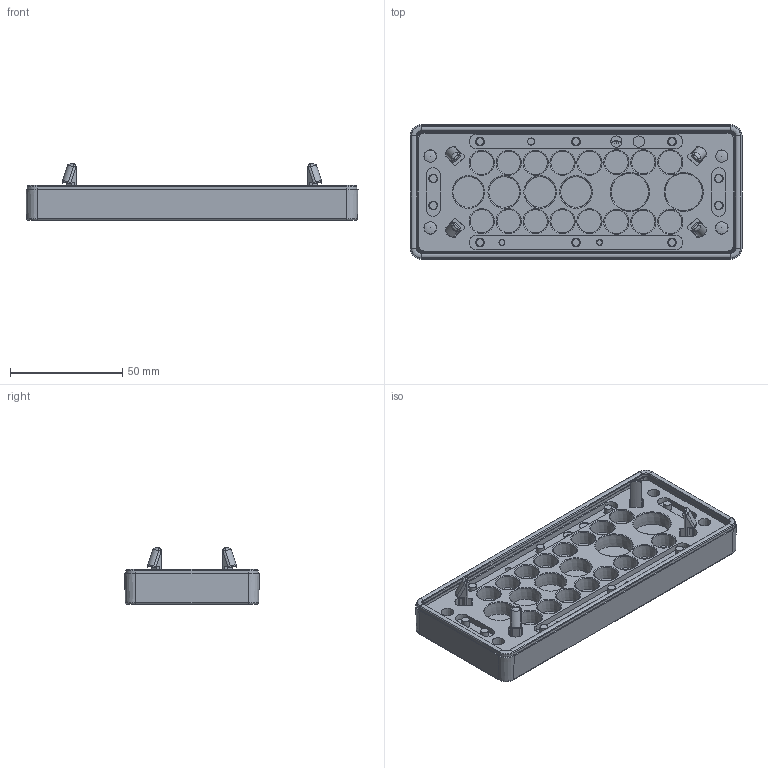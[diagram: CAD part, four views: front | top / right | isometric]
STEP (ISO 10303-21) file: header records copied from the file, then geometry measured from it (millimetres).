
FILE_DESCRIPTION(/* description */ (''),/* implementation_level */ '2;1');
FILE_NAME(/* name */ 'H:\SapWorkDir\Inventor\MP1\ConvertTempPath\87_16_121491_00_A_220510_KDP-X 24-22 ZSB - Blech 1,5-2,0.stp',/* time_stamp */ '2022-10-06T06:48:13+02:00',/* author */ ('BAUER'),/* organization */ (''),/* preprocessor_version */ 'ST-DEVELOPER v16.13',/* originating_system */ 'Autodesk Inventor 2018',/* authorisation */ '');
FILE_SCHEMA (('AUTOMOTIVE_DESIGN { 1 0 10303 214 3 1 1 }'));
Products named in the file (5): 121491; 121387; 105851_MPS_3F1; 104104_MPS_3F1; 105849_MPS_3F1
Assembly tree (4 placements, depth 2):
  121491
    121387
    105851_MPS_3F1
    104104_MPS_3F1
    105849_MPS_3F1
Bounding box: 148 x 60 x 25 mm (x, y, z)
Volume: 73762.7 mm3; surface area: 72062.5 mm2
Topology: 4 solids, 4 shells, 3092 faces, 7949 edges, 4751 vertices
Faces by surface type: plane 1327, bspline 634, cylinder 435, cone 323, torus 260, sphere 113
Full cylindrical faces by diameter (mm): 2.5 x2, 2.6 x2, 3 x1, 3.1 x1, 3.6 x10, 5 x2, 5.5 x8, 6.5 x4, 7.5 x4
Entity records: 101858 total; most frequent: CARTESIAN_POINT 30585, ORIENTED_EDGE 15000, DIRECTION 13876, EDGE_CURVE 7500, VERTEX_POINT 4744, AXIS2_PLACEMENT_3D 4735, LINE 4406, VECTOR 4406
